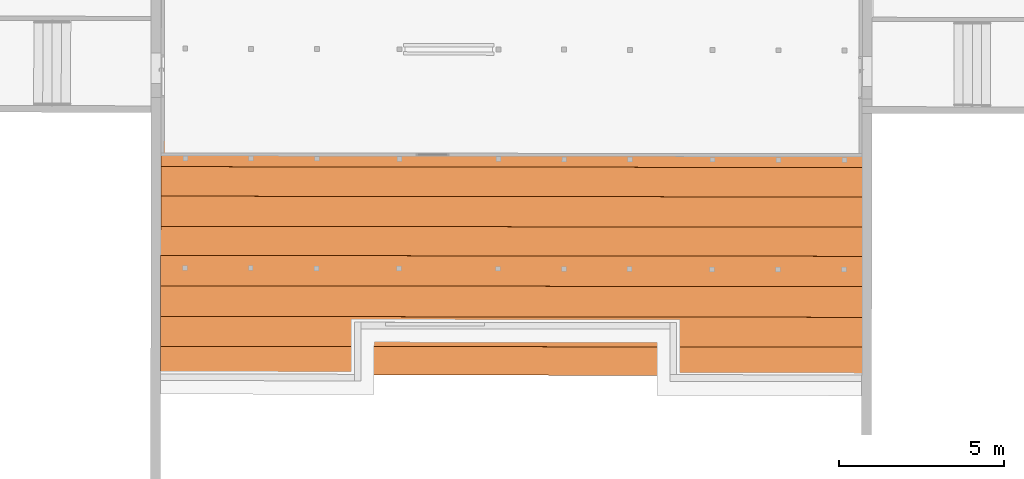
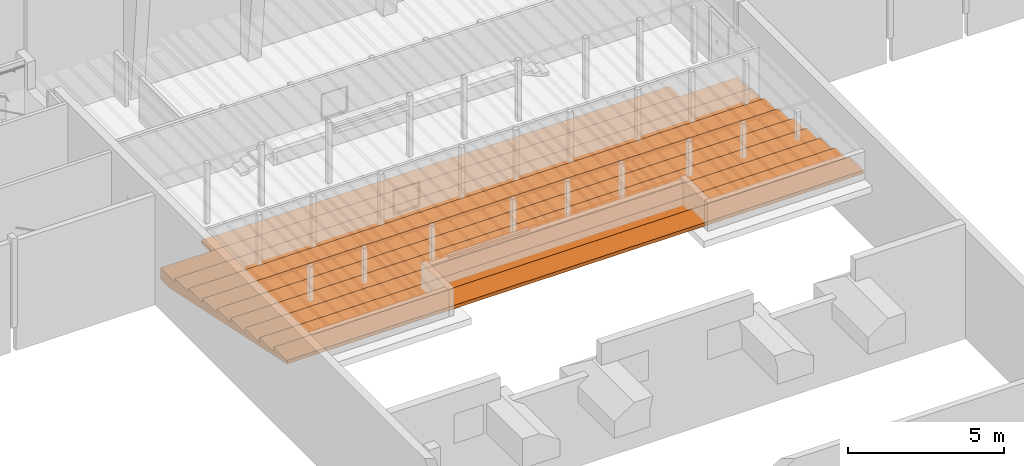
# One storey, part 23 of 24: 1 proxy.
"""IFC2X3 building model written with IfcOpenShell, lengths in metres."""

from ifc_helpers import new_model, entity, si_unit, converted_unit, derived_unit, direction, frame, origin, place, context, subcontext, project, spatial, polyline, outline, extrude, source, transform, mapped, material, type_object, type_shapes, element, save


model = new_model("IFC2X3")

# Units and contexts
model_context = context("Model", 3, precision=1e-05, world=origin(), true_north=direction((6.123233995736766e-17, 1.0)))
body_context = subcontext(model_context, "Body", "Model", "MODEL_VIEW")
ifc_project = project(units=[si_unit("LENGTHUNIT", "METRE"), si_unit("AREAUNIT", "SQUARE_METRE"), converted_unit("PLANEANGLEUNIT", "DEGREE", entity("IfcPlaneAngleMeasure", 0.017453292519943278), si_unit("PLANEANGLEUNIT", "RADIAN"), dimensions=[0, 0, 0, 0, 0, 0, 0]), derived_unit("THERMALTRANSMITTANCEUNIT", [(si_unit("MASSUNIT", "GRAM", prefix="KILO"), 1), (si_unit("THERMODYNAMICTEMPERATUREUNIT", "KELVIN"), -1), (si_unit("TIMEUNIT", "SECOND"), -3)])], contexts=[model_context])

# Site, building, storey
site_placement = place(None, frame((1253.6752467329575, 2072.143113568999, 91.49999999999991), z_axis=(0.0, 0.0, 1.0), x_axis=(0.7237211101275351, 0.6900925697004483, 0.0)))
site = spatial("IfcSite", under=ifc_project, at=site_placement, Name="Surface", CompositionType="ELEMENT")
building_placement = place(site_placement, origin())
building = spatial("IfcBuilding", under=site, at=building_placement, CompositionType="ELEMENT")
storey_placement = place(building_placement, frame((0.0, 0.0, -7.049999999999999)))
storey = spatial("IfcBuildingStorey", under=building, at=storey_placement, Name="R-1", CompositionType="ELEMENT", Elevation=-7.049999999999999)

# Proxy
ifc_material = material(Name="OMD_Béton blanc")
building_element_proxy_type = type_object("IfcBuildingElementProxyType", Name="gradins:gradins", PredefinedType="NOTDEFINED", material=ifc_material)
shared_shape = source(origin(), body_context, "Body", "SweptSolid", [
    extrude(outline(polyline([(-0.41855432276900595, -8.652774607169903), (0.43043080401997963, -8.652774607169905), (0.4066778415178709, 8.652774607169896), (-0.41855432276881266, 8.652774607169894), (-0.41855432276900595, -8.652774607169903)])), frame((177.97494629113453, 4.501257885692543, -7.049999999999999), z_axis=(0.0, 0.0, 1.0), x_axis=(-0.691975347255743, -0.7219211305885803, 0.0)), (0.0, 0.0, 1.0), 0.11999999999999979),
    extrude(outline(polyline([(3.3735310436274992, -0.993477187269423), (3.8997415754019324, -0.993477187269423), (3.8993141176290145, -0.5369513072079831), (2.9786048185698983, -0.53781339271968), (2.9784737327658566, -0.39781345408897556), (2.0951642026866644, -0.3986405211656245), (2.0950331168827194, -0.2586405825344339), (1.2008812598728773, -0.2594778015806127), (1.2007408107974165, -0.10947786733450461), (0.28475599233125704, -0.11033552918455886), (0.28460149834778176, 0.05466439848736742), (-0.5990803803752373, 0.053836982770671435), (-0.5992301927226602, 0.21383691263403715), (-1.519482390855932, 0.21297525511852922), (-1.5196509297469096, 0.39297517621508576), (-2.4504941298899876, 0.3921036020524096), (-2.45066266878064, 0.5721035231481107), (-3.3556296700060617, 0.5712561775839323), (-3.3558028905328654, 0.7562560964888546), (-4.220467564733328, 0.7554464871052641), (-4.220341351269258, 0.6206502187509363), (3.3735310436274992, -0.993477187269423)])), frame((167.29400118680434, 8.735943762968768, -6.256522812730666), z_axis=(0.7228702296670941, -0.6909838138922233, 0.0), x_axis=(0.6909838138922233, 0.7228702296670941, 0.0)), (0.0, 0.0, 1.0), 21.319999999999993),
])
type_shapes(building_element_proxy_type, [shared_shape])
proxy_placement = place(storey_placement, frame((0.0, 0.0, 7.049999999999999)))
element("IfcBuildingElementProxy", 1, at=proxy_placement, inside=storey, type_object=building_element_proxy_type, material=ifc_material, Name="gradins:gradins", ObjectType="gradins:gradins", context=body_context, shape_type="MappedRepresentation", body=[
    mapped(shared_shape, transform((0.0, 0.0, 0.0), scale=1.0)),
])

save(model, "model.ifc")
